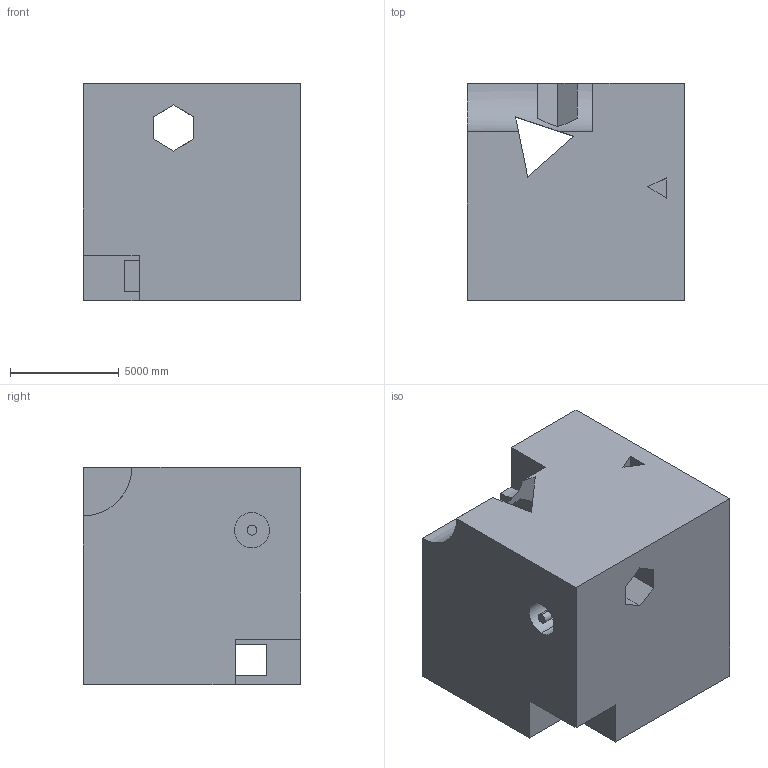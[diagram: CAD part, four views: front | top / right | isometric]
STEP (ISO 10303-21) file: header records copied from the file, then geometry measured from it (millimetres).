
FILE_DESCRIPTION (( 'STEP AP203' ), '1' );
FILE_NAME ('65.STEP', '2022-08-30T15:39:22', ( 'user' ), ( '' ), 'SwSTEP 2.0', 'SolidWorks 2021', '' );
FILE_SCHEMA (( 'CONFIG_CONTROL_DESIGN' ));
Length unit declared in the file: centimetre
Products named in the file (1): 65
Bounding box: 10000 x 10000 x 10000 mm (x, y, z)
Volume: 875764843531.2 mm3; surface area: 781810423.5 mm2
Topology: 1 solids, 1 shells, 38 faces, 114 edges, 76 vertices
Faces by surface type: plane 33, cylinder 5
Entity records: 1363 total; most frequent: CARTESIAN_POINT 241, ORIENTED_EDGE 228, DIRECTION 200, EDGE_CURVE 114, LINE 98, VECTOR 98, VERTEX_POINT 76, AXIS2_PLACEMENT_3D 51
